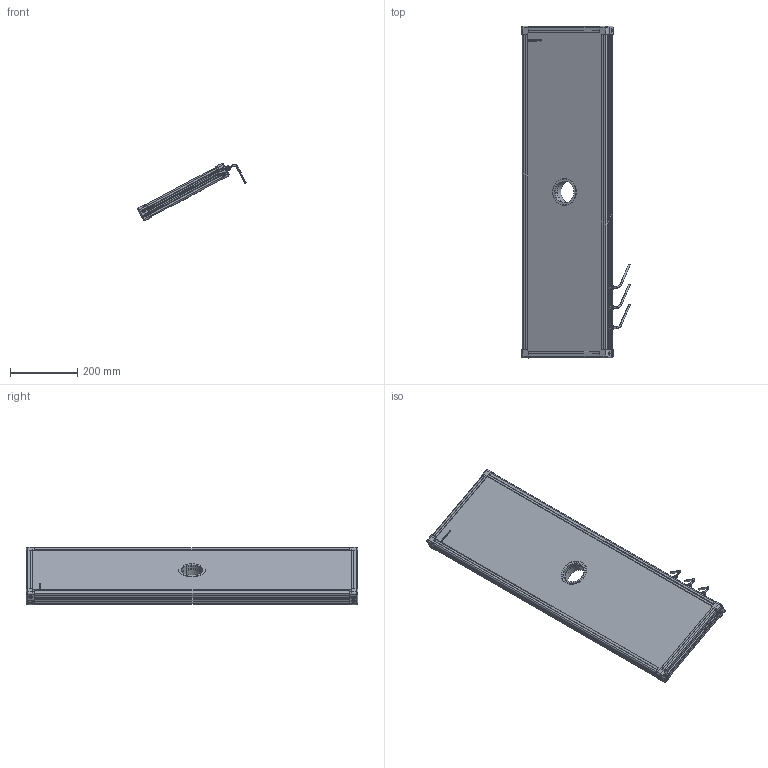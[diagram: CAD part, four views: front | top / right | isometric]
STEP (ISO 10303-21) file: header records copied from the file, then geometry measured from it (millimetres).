
FILE_DESCRIPTION (( 'STEP AP214' ), '1' );
FILE_NAME ('EFFI-FD-250-950-ZZZ-3M12.STEP', '2021-06-24T07:19:08', ( '' ), ( '' ), 'SwSTEP 2.0', 'SolidWorks 2021', '' );
FILE_SCHEMA (( 'AUTOMOTIVE_DESIGN' ));
Length unit declared in the file: millimetre
Products named in the file (13): profile Y_PERCE; EFFI-FD-250-950-ZZZ-3M12; petite joue; cordon_Avec cable; Pièce13^EFFI-FD-XXX-YYY-ZZZ (3 connecteurs) Ø65; petite joue + vis; 000629; 004408; 000590; Assemblage Ø65; profile X_PERCE; 004409
Assembly tree (21 placements, depth 3):
  EFFI-FD-250-950-ZZZ-3M12
    profile X_PERCE  x2
    profile Y_PERCE
    profile Y_PERCE
    Pièce13^EFFI-FD-XXX-YYY-ZZZ (3 connecteurs) Ø65
    petite joue + vis  x4
      petite joue
      000629
    Assemblage Ø65
      004408
      004409
      000590  x3
    cordon_Avec cable  x3
Bounding box: 322.22 x 989 x 170.38 mm (x, y, z)
Volume: 9758970.1 mm3; surface area: 986622.8 mm2
Topology: 22 solids, 40 shells, 4128 faces, 10950 edges, 7183 vertices
Faces by surface type: plane 2537, cylinder 761, bspline 609, cone 158, torus 55, sphere 8
Entity records: 57340 total; most frequent: CARTESIAN_POINT 22845, ORIENTED_EDGE 7186, DIRECTION 5938, EDGE_CURVE 3597, LINE 2502, VECTOR 2502, VERTEX_POINT 2364, AXIS2_PLACEMENT_3D 1718
